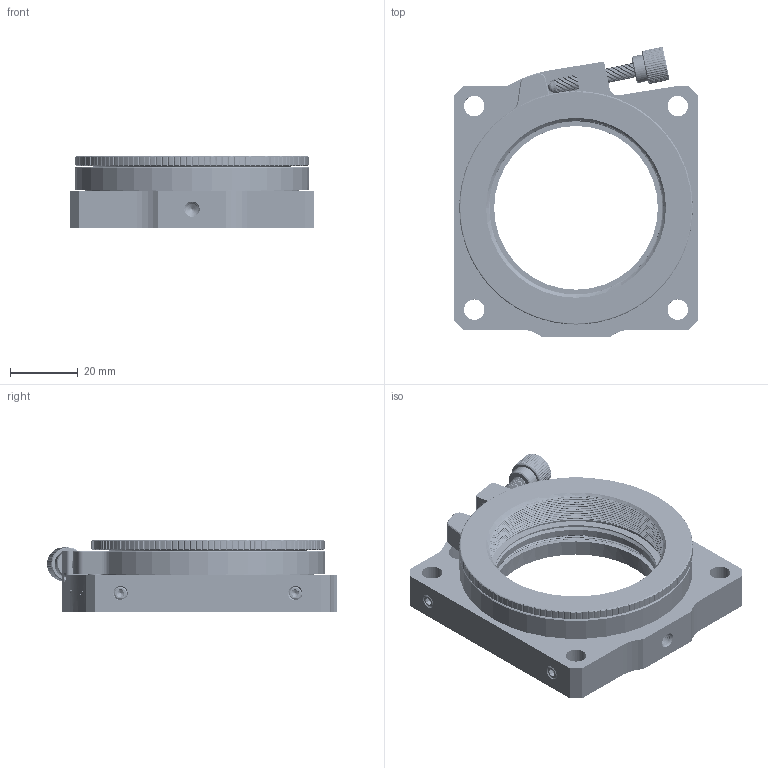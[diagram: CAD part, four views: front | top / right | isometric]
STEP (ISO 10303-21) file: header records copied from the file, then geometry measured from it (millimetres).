
FILE_DESCRIPTION((''),'2;1');
FILE_NAME('ASM0003_ASM','2026-04-10T10:38:19',('Administrator'),(''),'CREO PARAMETRIC BY PTC INC, 2025102','CREO PARAMETRIC BY PTC INC, 2025102','');
FILE_SCHEMA(('CONFIG_CONTROL_DESIGN'));
Products named in the file (18): CRD60-R2-A2_115_1; CRD60-R2-A3_251_1; CRD60-R2-A4_6_1; CRD60-R2-A5_59_1; CRD60-R2-A6_48_1; CRD60-R2-A7_14_1; CRD60-R2-A8; CRD60-R2-A9_6_1; CRD60-R2-B1_6_1; CRD60-R2-B2_6_1; CRD60-R2-B3_197_1; CRD60-R2-B4_116_1; CRD60-R2-B5_28_1; CRD60-R2-B6_6_1; CRD60-R2-B7_6_1; CRD60-R2-B8_46_1; CRD60-R2-B9_6_1; ASM0003_ASM
Assembly tree (17 placements, depth 2):
  ASM0003_ASM
    CRD60-R2-A2_115_1
    CRD60-R2-A3_251_1
    CRD60-R2-A4_6_1
    CRD60-R2-A5_59_1
    CRD60-R2-A6_48_1
    CRD60-R2-A7_14_1
    CRD60-R2-A8
    CRD60-R2-A9_6_1
    CRD60-R2-B1_6_1
    CRD60-R2-B2_6_1
    CRD60-R2-B3_197_1
    CRD60-R2-B4_116_1
    CRD60-R2-B5_28_1
    CRD60-R2-B6_6_1
    CRD60-R2-B7_6_1
    CRD60-R2-B8_46_1
    CRD60-R2-B9_6_1
Bounding box: 71.75 x 85.55 x 20.95 mm (x, y, z)
Volume: 48434.9 mm3; surface area: 38122 mm2
Topology: 17 solids, 17 shells, 2107 faces, 5986 edges, 3929 vertices
Faces by surface type: cylinder 1121, bspline 434, plane 287, cone 200, extrusion 54, sphere 7, torus 4
Entity records: 181637 total; most frequent: CARTESIAN_POINT 132645, ORIENTED_EDGE 11912, DIRECTION 7448, EDGE_CURVE 5956, VERTEX_POINT 3929, B_SPLINE_CURVE_WITH_KNOTS 2936, AXIS2_PLACEMENT_3D 2666, EDGE_LOOP 2207
